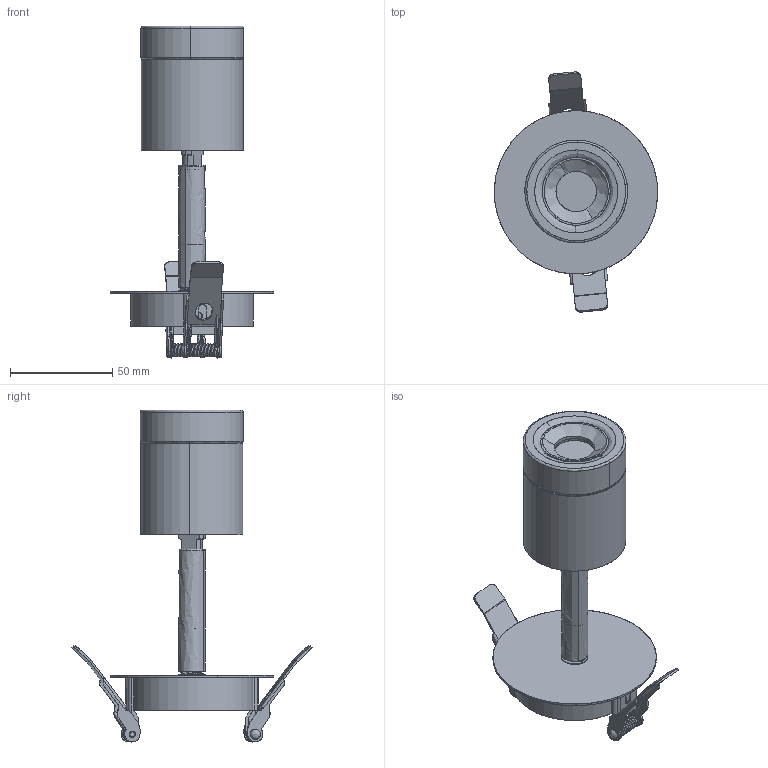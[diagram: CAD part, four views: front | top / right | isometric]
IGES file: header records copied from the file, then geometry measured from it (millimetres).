
Start section: SolidWorks IGES file using analytic representation for surfaces
Global section: file name: C:\Users\Agustin\Desktop\ANGELA\2026\ARQUITECTURAL\MIMU\3D\MIMU_empotrable.IGS; native system: SolidWorks 2023; preprocessor: SolidWorks 2023; author: Agustin; date: 260430.093327; units: millimetre
Bounding box: 79.98 x 117.57 x 162.48 mm (x, y, z)
Surface area: 80557.6 mm2 (no closed solid volume)
Topology: 0 solids, 0 shells, 949 faces, 13331 edges, 13331 vertices
Faces by surface type: bspline 603, revolution 346
